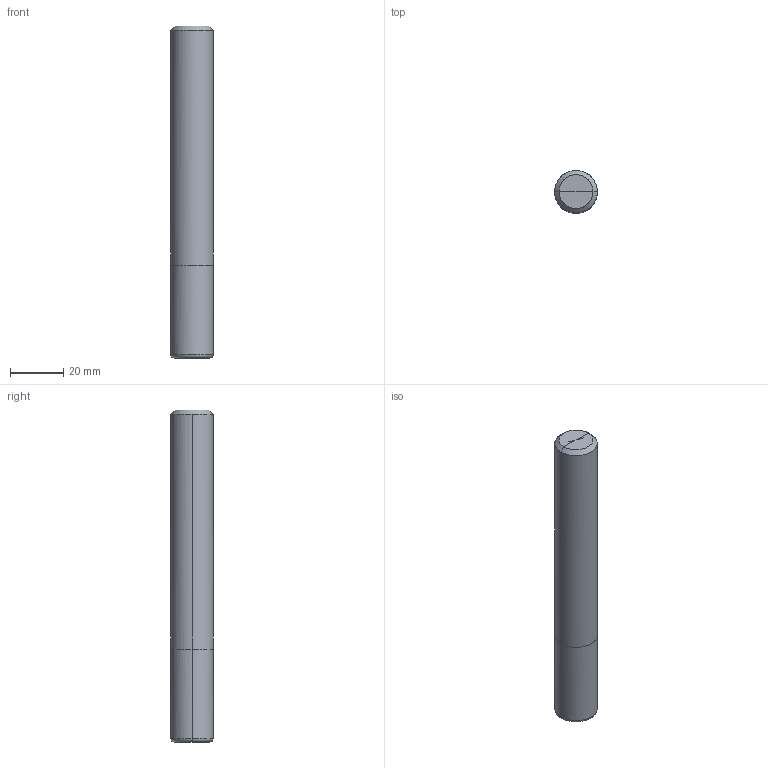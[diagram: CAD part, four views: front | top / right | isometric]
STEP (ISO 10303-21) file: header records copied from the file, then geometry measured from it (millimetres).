
FILE_DESCRIPTION(/* description */ (''),/* implementation_level */ '2;1');
FILE_NAME(/*name*/ '5021-16F-1.25R',/*time_stamp*/'2021-4-28T9:15:42',/*author*/ ('ISBE GmbH'),/*organization*/ ('ISBE GmbH'),/*preprocessor_version*/ 'STEP IO v1.0',/*originating_system*/ '',/*authorisation*/ '');
FILE_SCHEMA (('AUTOMOTIVE_DESIGN'));
Length unit declared in the file: millimetre
Products named in the file (1): Document
Bounding box: 16 x 15.99 x 125 mm (x, y, z)
Surface area: 7019.2 mm2 (no closed solid volume)
Topology: 0 solids, 16 shells, 16 faces, 69 edges, 66 vertices
Faces by surface type: bspline 16
Entity records: 2316 total; most frequent: CARTESIAN_POINT 2009, VERTEX_POINT 56, EDGE_CURVE 56, ORIENTED_EDGE 56, DIRECTION 16, EDGE_LOOP 16, FACE_OUTER_BOUND 16, ADVANCED_FACE 16
